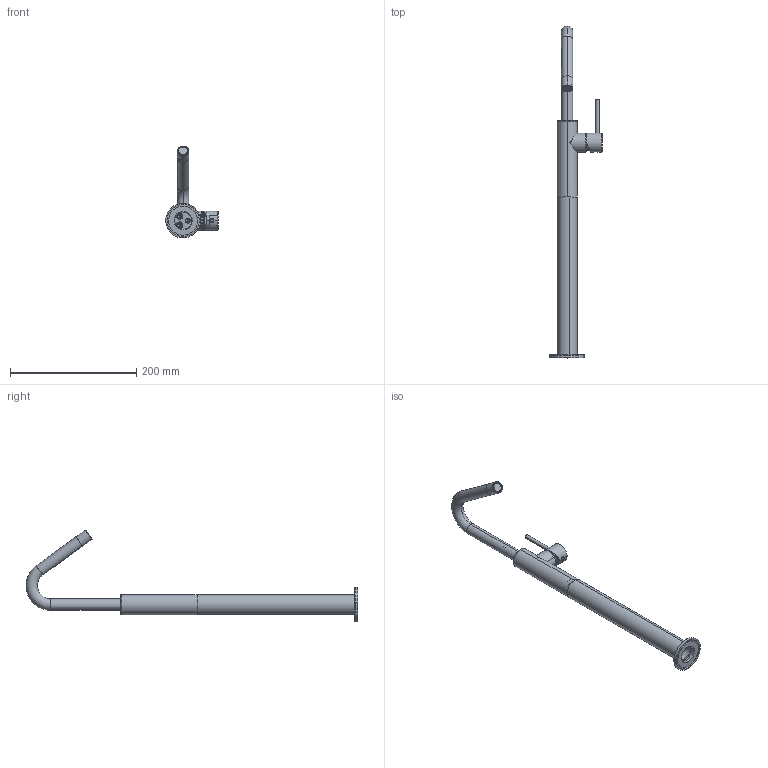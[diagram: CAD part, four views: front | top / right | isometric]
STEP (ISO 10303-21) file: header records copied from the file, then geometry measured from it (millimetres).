
FILE_DESCRIPTION (( 'STEP AP203' ), '1' );
FILE_NAME ('MME52.STEP', '2025-02-07T07:47:38', ( '' ), ( '' ), 'SwSTEP 2.0', 'SolidWorks 2024', '' );
FILE_SCHEMA (( 'CONFIG_CONTROL_DESIGN' ));
Length unit declared in the file: millimetre
Products named in the file (24): C24.0029.00.1; C21.0649.00.0; C12.00.0004; C47.00.0111.00; C24.0370.00.3; C11.14.0019; C11.14.0014; C23.0824.01; C19.11.0029.43; C24.0119.00.2; C47.00.0049.08; C21.0648.00.1; OR1052ACS; C24.2075.00.0; C24.0120.00.1; C12.00.0054; C24.0372.00.1; MME52; C24.0699.00.0; C24.0061.00.1; C13.00.0066.01; RC014NK; C10.00.0013; C47.00.0023.01
Assembly tree (25 placements, depth 3):
  MME52
    C11.14.0014
    C24.0061.00.1
    C19.11.0029.43
      C24.0370.00.3
      C24.2075.00.0
    C24.0029.00.1
    C24.0372.00.1
    C24.0119.00.2
    C24.0120.00.1
    C10.00.0013
    C23.0824.01
    C24.0699.00.0
    C21.0648.00.1
    C21.0649.00.0  x2
    C12.00.0054  x2
    C47.00.0023.01
    C11.14.0019
    C12.00.0004
    C47.00.0111.00
    C47.00.0049.08
      OR1052ACS
      RC014NK
    C13.00.0066.01
Bounding box: 82.99 x 525.89 x 145.71 mm (x, y, z)
Volume: 156628.2 mm3; surface area: 142593.9 mm2
Topology: 22 solids, 32 shells, 1123 faces, 3040 edges, 1960 vertices
Faces by surface type: cylinder 426, plane 331, cone 202, bspline 86, torus 78
Entity records: 42004 total; most frequent: CARTESIAN_POINT 13116, DIRECTION 5404, ORIENTED_EDGE 5400, EDGE_CURVE 2930, AXIS2_PLACEMENT_3D 2143, VERTEX_POINT 1912, EDGE_LOOP 1196, LINE 1118
